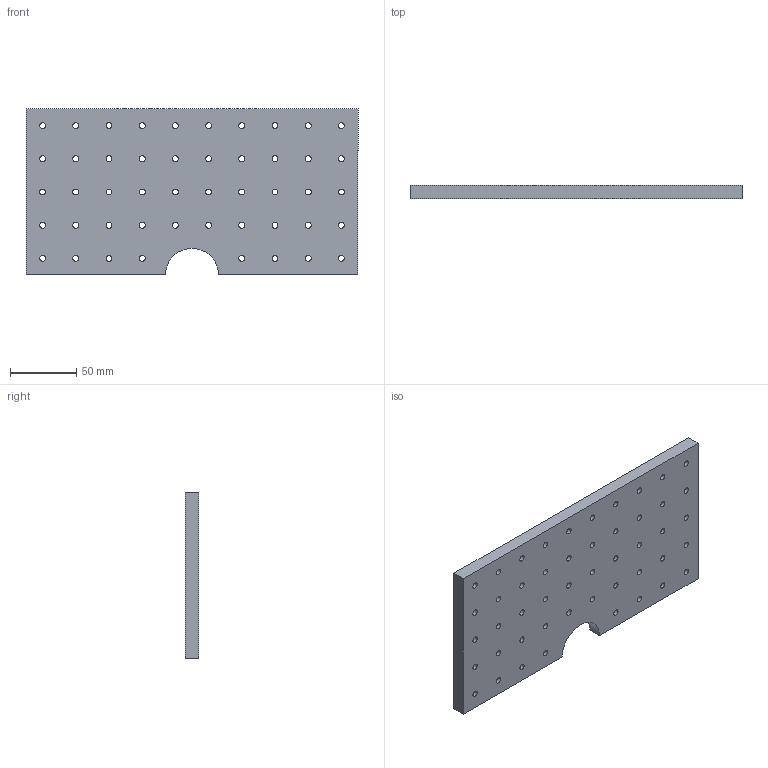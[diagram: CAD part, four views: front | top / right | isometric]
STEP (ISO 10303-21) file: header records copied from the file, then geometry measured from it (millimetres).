
FILE_DESCRIPTION(/* description */ (''),/* implementation_level */ '2;1');
FILE_NAME(/* name */ 'c-10x10-d20.stp',/* time_stamp */ '2026-04-10T09:55:56+08:00',/* author */ ('32769'),/* organization */ (''),/* preprocessor_version */ 'ST-DEVELOPER v20',/* originating_system */ 'Autodesk Inventor 2025',/* authorisation */ '');
FILE_SCHEMA (('AUTOMOTIVE_DESIGN { 1 0 10303 214 3 1 1 }'));
Length unit declared in the file: millimetre
Products named in the file (1): c-250x250x10-d20
Bounding box: 250 x 10 x 125 mm (x, y, z)
Volume: 298582.7 mm3; surface area: 74230.7 mm2
Topology: 1 solids, 1 shells, 56 faces, 162 edges, 108 vertices
Faces by surface type: cylinder 49, plane 7
Full cylindrical faces by diameter (mm): 4.5 x48
Entity records: 2139 total; most frequent: DIRECTION 374, CARTESIAN_POINT 327, ORIENTED_EDGE 324, EDGE_CURVE 162, AXIS2_PLACEMENT_3D 155, EDGE_LOOP 152, VERTEX_POINT 108, CIRCLE 98
